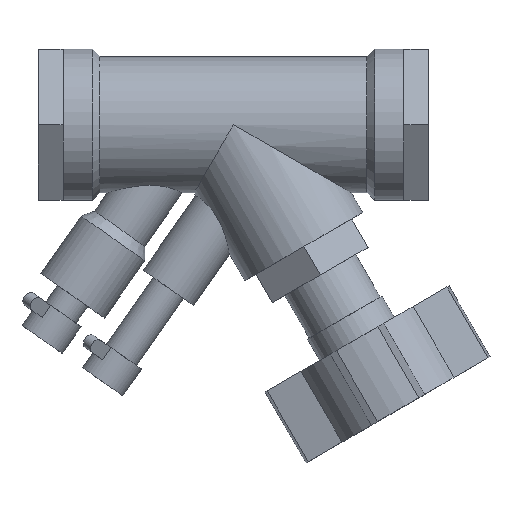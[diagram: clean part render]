
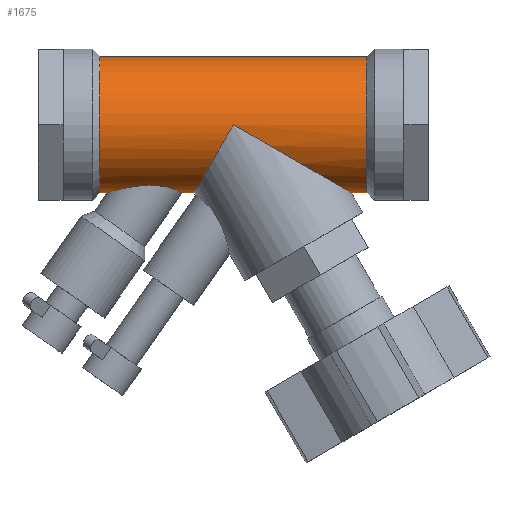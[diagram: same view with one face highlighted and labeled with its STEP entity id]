
A CAD part, top view. The second image highlights one B-rep face of the part: STEP entity #1675.
In plain terms, the highlighted cylindrical face has radius 21.082 mm (diameter 42.164 mm), a full revolution.
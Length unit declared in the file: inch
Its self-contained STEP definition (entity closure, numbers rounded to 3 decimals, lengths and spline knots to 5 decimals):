
#45=ELLIPSE('',#1852,0.9584,0.83);
#46=ELLIPSE('',#1853,1.66,0.83);
#47=ELLIPSE('',#1855,1.66,0.83);
#48=ELLIPSE('',#1856,0.9584,0.83);
#51=B_SPLINE_CURVE_WITH_KNOTS('',3,(#2691,#2692,#2693,#2694,#2695,#2696,
#2697,#2698,#2699,#2700,#2701,#2702),.UNSPECIFIED.,.F.,.F.,(4,2,2,2,2,4),
(0.,0.40072,0.60108,0.80144,1.15763,
1.51381),.UNSPECIFIED.);
#52=B_SPLINE_CURVE_WITH_KNOTS('',3,(#2704,#2705,#2706,#2707,#2708,#2709,
#2710,#2711,#2712,#2713,#2714,#2715),.UNSPECIFIED.,.F.,.F.,(4,2,2,2,2,4),
(4.76391,4.96741,5.17091,5.57791,6.03906,
6.50021),.UNSPECIFIED.);
#53=B_SPLINE_CURVE_WITH_KNOTS('',3,(#2716,#2717,#2718,#2719,#2720,#2721,
#2722,#2723,#2724,#2725,#2726,#2727,#2728,#2729,#2730,#2731,#2732,#2733,
#2734,#2735,#2736,#2737),.UNSPECIFIED.,.F.,.F.,(4,2,2,2,2,2,2,2,2,2,4),
(1.51381,1.86999,2.22617,2.42653,2.62689,
3.02761,3.48876,3.94991,4.35691,4.56041,
4.76391),.UNSPECIFIED.);
#187=LINE('',#2899,#322);
#188=LINE('',#2900,#323);
#189=LINE('',#2901,#324);
#322=VECTOR('',#2330,0.83);
#323=VECTOR('',#2331,0.83);
#324=VECTOR('',#2332,0.83);
#349=CYLINDRICAL_SURFACE('',#1858,0.83);
#446=FACE_OUTER_BOUND('',#543,.T.);
#543=EDGE_LOOP('',(#1378,#1379,#1380,#1381,#1382,#1383,#1384,#1385,#1386,
#1387,#1388,#1389,#1390,#1391,#1392,#1393,#1394));
#619=CIRCLE('',#1843,0.83);
#620=CIRCLE('',#1844,0.83);
#623=CIRCLE('',#1848,0.83);
#624=CIRCLE('',#1849,0.83);
#722=VERTEX_POINT('',#2689);
#723=VERTEX_POINT('',#2690);
#724=VERTEX_POINT('',#2703);
#763=VERTEX_POINT('',#2868);
#764=VERTEX_POINT('',#2869);
#767=VERTEX_POINT('',#2878);
#768=VERTEX_POINT('',#2880);
#769=VERTEX_POINT('',#2886);
#770=VERTEX_POINT('',#2887);
#771=VERTEX_POINT('',#2889);
#773=VERTEX_POINT('',#2894);
#907=EDGE_CURVE('',#722,#723,#51,.T.);
#908=EDGE_CURVE('',#724,#722,#52,.T.);
#909=EDGE_CURVE('',#723,#724,#53,.T.);
#975=EDGE_CURVE('',#763,#764,#619,.T.);
#976=EDGE_CURVE('',#764,#763,#620,.T.);
#981=EDGE_CURVE('',#768,#767,#623,.T.);
#982=EDGE_CURVE('',#767,#768,#624,.T.);
#984=EDGE_CURVE('',#769,#770,#45,.T.);
#985=EDGE_CURVE('',#771,#769,#46,.T.);
#988=EDGE_CURVE('',#773,#771,#47,.T.);
#989=EDGE_CURVE('',#770,#773,#48,.T.);
#990=EDGE_CURVE('',#767,#771,#187,.T.);
#991=EDGE_CURVE('',#770,#723,#188,.T.);
#992=EDGE_CURVE('',#724,#764,#189,.T.);
#1378=ORIENTED_EDGE('',*,*,#981,.T.);
#1379=ORIENTED_EDGE('',*,*,#990,.T.);
#1380=ORIENTED_EDGE('',*,*,#985,.T.);
#1381=ORIENTED_EDGE('',*,*,#984,.T.);
#1382=ORIENTED_EDGE('',*,*,#991,.T.);
#1383=ORIENTED_EDGE('',*,*,#909,.T.);
#1384=ORIENTED_EDGE('',*,*,#992,.T.);
#1385=ORIENTED_EDGE('',*,*,#976,.T.);
#1386=ORIENTED_EDGE('',*,*,#975,.T.);
#1387=ORIENTED_EDGE('',*,*,#992,.F.);
#1388=ORIENTED_EDGE('',*,*,#908,.T.);
#1389=ORIENTED_EDGE('',*,*,#907,.T.);
#1390=ORIENTED_EDGE('',*,*,#991,.F.);
#1391=ORIENTED_EDGE('',*,*,#989,.T.);
#1392=ORIENTED_EDGE('',*,*,#988,.T.);
#1393=ORIENTED_EDGE('',*,*,#990,.F.);
#1394=ORIENTED_EDGE('',*,*,#982,.T.);
#1675=ADVANCED_FACE('',(#446),#349,.T.);
#1843=AXIS2_PLACEMENT_3D('',#2870,#2294,#2295);
#1844=AXIS2_PLACEMENT_3D('',#2871,#2296,#2297);
#1848=AXIS2_PLACEMENT_3D('',#2881,#2306,#2307);
#1849=AXIS2_PLACEMENT_3D('',#2882,#2308,#2309);
#1852=AXIS2_PLACEMENT_3D('',#2888,#2315,#2316);
#1853=AXIS2_PLACEMENT_3D('',#2890,#2317,#2318);
#1855=AXIS2_PLACEMENT_3D('',#2895,#2322,#2323);
#1856=AXIS2_PLACEMENT_3D('',#2896,#2324,#2325);
#1858=AXIS2_PLACEMENT_3D('',#2898,#2328,#2329);
#2294=DIRECTION('center_axis',(1.,0.,0.));
#2295=DIRECTION('ref_axis',(0.,1.,0.));
#2296=DIRECTION('center_axis',(1.,0.,0.));
#2297=DIRECTION('ref_axis',(0.,1.,0.));
#2306=DIRECTION('center_axis',(-1.,0.,0.));
#2307=DIRECTION('ref_axis',(0.,1.,0.));
#2308=DIRECTION('center_axis',(-1.,0.,0.));
#2309=DIRECTION('ref_axis',(0.,1.,0.));
#2315=DIRECTION('center_axis',(-0.866,0.5,0.));
#2316=DIRECTION('ref_axis',(-0.5,-0.866,0.));
#2317=DIRECTION('center_axis',(0.5,0.866,0.));
#2318=DIRECTION('ref_axis',(-0.866,0.5,0.));
#2322=DIRECTION('center_axis',(0.5,0.866,0.));
#2323=DIRECTION('ref_axis',(-0.866,0.5,0.));
#2324=DIRECTION('center_axis',(-0.866,0.5,0.));
#2325=DIRECTION('ref_axis',(-0.5,-0.866,0.));
#2328=DIRECTION('center_axis',(1.,0.,0.));
#2329=DIRECTION('ref_axis',(0.,1.,0.));
#2330=DIRECTION('',(-1.,0.,0.));
#2331=DIRECTION('',(-1.,0.,0.));
#2332=DIRECTION('',(-1.,0.,0.));
#2689=CARTESIAN_POINT('',(-1.01847,-0.74046,0.375));
#2690=CARTESIAN_POINT('',(-0.62338,-0.83,0.));
#2691=CARTESIAN_POINT('Ctrl Pts',(-1.01847,-0.74046,
0.375));
#2692=CARTESIAN_POINT('Ctrl Pts',(-0.96588,-0.74046,
0.375));
#2693=CARTESIAN_POINT('Ctrl Pts',(-0.9092,-0.7447,
0.36709));
#2694=CARTESIAN_POINT('Ctrl Pts',(-0.83192,-0.75778,
0.3388));
#2695=CARTESIAN_POINT('Ctrl Pts',(-0.80737,-0.76316,
0.3267));
#2696=CARTESIAN_POINT('Ctrl Pts',(-0.76247,-0.77491,
0.29774));
#2697=CARTESIAN_POINT('Ctrl Pts',(-0.74212,-0.78127,
0.28089));
#2698=CARTESIAN_POINT('Ctrl Pts',(-0.69286,-0.79832,0.22973));
#2699=CARTESIAN_POINT('Ctrl Pts',(-0.66637,-0.80974,
0.18809));
#2700=CARTESIAN_POINT('Ctrl Pts',(-0.63169,-0.82567,
0.09659));
#2701=CARTESIAN_POINT('Ctrl Pts',(-0.62338,-0.83,
0.04674));
#2702=CARTESIAN_POINT('Ctrl Pts',(-0.62338,-0.83,
0.));
#2703=CARTESIAN_POINT('',(-1.53896,-0.83,0.));
#2704=CARTESIAN_POINT('Ctrl Pts',(-1.53896,-0.83,0.));
#2705=CARTESIAN_POINT('Ctrl Pts',(-1.53896,-0.83,0.02671));
#2706=CARTESIAN_POINT('Ctrl Pts',(-1.53453,-0.82869,0.0532));
#2707=CARTESIAN_POINT('Ctrl Pts',(-1.51781,-0.82384,
0.10409));
#2708=CARTESIAN_POINT('Ctrl Pts',(-1.50553,-0.82032,
0.12851));
#2709=CARTESIAN_POINT('Ctrl Pts',(-1.45998,-0.80768,0.19672));
#2710=CARTESIAN_POINT('Ctrl Pts',(-1.41768,-0.79651,
0.23547));
#2711=CARTESIAN_POINT('Ctrl Pts',(-1.32541,-0.77516,
0.29881));
#2712=CARTESIAN_POINT('Ctrl Pts',(-1.2669,-0.76325,0.32679));
#2713=CARTESIAN_POINT('Ctrl Pts',(-1.14371,-0.74578,0.36489));
#2714=CARTESIAN_POINT('Ctrl Pts',(-1.07899,-0.74046,0.375));
#2715=CARTESIAN_POINT('Ctrl Pts',(-1.01847,-0.74046,
0.375));
#2716=CARTESIAN_POINT('Ctrl Pts',(-0.62338,-0.83,
0.));
#2717=CARTESIAN_POINT('Ctrl Pts',(-0.62338,-0.83,
-0.04674));
#2718=CARTESIAN_POINT('Ctrl Pts',(-0.63169,-0.82567,
-0.09659));
#2719=CARTESIAN_POINT('Ctrl Pts',(-0.66637,-0.80974,
-0.18809));
#2720=CARTESIAN_POINT('Ctrl Pts',(-0.69286,-0.79832,-0.22973));
#2721=CARTESIAN_POINT('Ctrl Pts',(-0.74212,-0.78127,
-0.28089));
#2722=CARTESIAN_POINT('Ctrl Pts',(-0.76247,-0.77491,
-0.29774));
#2723=CARTESIAN_POINT('Ctrl Pts',(-0.80737,-0.76316,
-0.3267));
#2724=CARTESIAN_POINT('Ctrl Pts',(-0.83192,-0.75778,
-0.3388));
#2725=CARTESIAN_POINT('Ctrl Pts',(-0.9092,-0.7447,
-0.36709));
#2726=CARTESIAN_POINT('Ctrl Pts',(-0.96588,-0.74046,
-0.375));
#2727=CARTESIAN_POINT('Ctrl Pts',(-1.07899,-0.74046,-0.375));
#2728=CARTESIAN_POINT('Ctrl Pts',(-1.14371,-0.74578,-0.36489));
#2729=CARTESIAN_POINT('Ctrl Pts',(-1.2669,-0.76325,-0.32679));
#2730=CARTESIAN_POINT('Ctrl Pts',(-1.32541,-0.77516,
-0.29881));
#2731=CARTESIAN_POINT('Ctrl Pts',(-1.41768,-0.79651,
-0.23547));
#2732=CARTESIAN_POINT('Ctrl Pts',(-1.45998,-0.80768,-0.19672));
#2733=CARTESIAN_POINT('Ctrl Pts',(-1.50553,-0.82032,
-0.12851));
#2734=CARTESIAN_POINT('Ctrl Pts',(-1.51781,-0.82384,
-0.10409));
#2735=CARTESIAN_POINT('Ctrl Pts',(-1.53453,-0.82869,-0.0532));
#2736=CARTESIAN_POINT('Ctrl Pts',(-1.53896,-0.83,-0.02671));
#2737=CARTESIAN_POINT('Ctrl Pts',(-1.53896,-0.83,0.));
#2868=CARTESIAN_POINT('',(-1.63,0.83,0.));
#2869=CARTESIAN_POINT('',(-1.63,-0.83,0.));
#2870=CARTESIAN_POINT('Origin',(-1.63,0.,0.));
#2871=CARTESIAN_POINT('Origin',(-1.63,0.,0.));
#2878=CARTESIAN_POINT('',(1.63,-0.83,0.));
#2880=CARTESIAN_POINT('',(1.63,0.83,0.));
#2881=CARTESIAN_POINT('Origin',(1.63,0.,0.));
#2882=CARTESIAN_POINT('Origin',(1.63,0.,0.));
#2886=CARTESIAN_POINT('',(0.,0.,-0.83));
#2887=CARTESIAN_POINT('',(-0.4792,-0.83,0.));
#2888=CARTESIAN_POINT('Origin',(0.,0.,
0.));
#2889=CARTESIAN_POINT('',(1.4376,-0.83,0.));
#2890=CARTESIAN_POINT('Origin',(0.,0.,
0.));
#2894=CARTESIAN_POINT('',(0.,0.,0.83));
#2895=CARTESIAN_POINT('Origin',(0.,0.,
0.));
#2896=CARTESIAN_POINT('Origin',(0.,0.,
0.));
#2898=CARTESIAN_POINT('Origin',(0.,0.,
0.));
#2899=CARTESIAN_POINT('',(0.,-0.83,0.));
#2900=CARTESIAN_POINT('',(0.,-0.83,0.));
#2901=CARTESIAN_POINT('',(0.,-0.83,0.));
